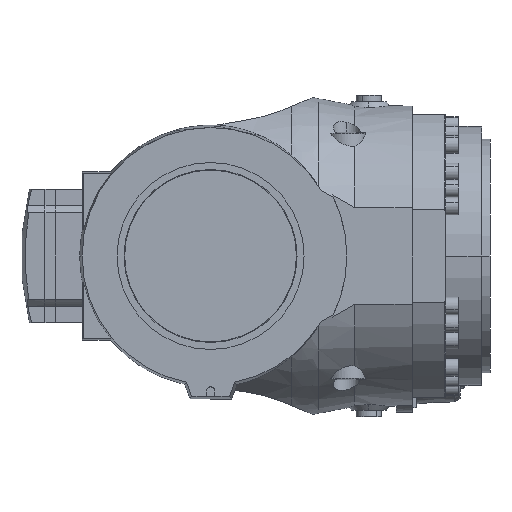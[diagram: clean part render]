
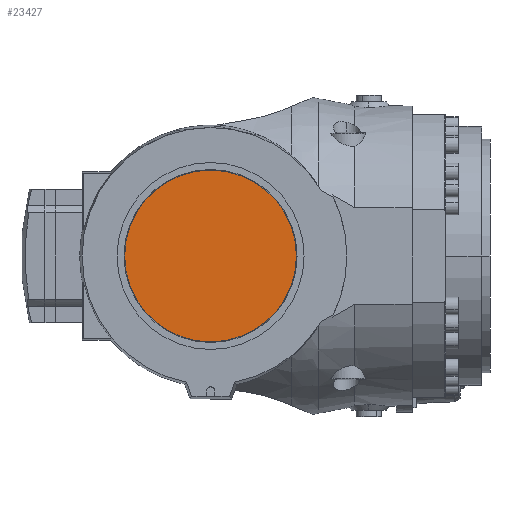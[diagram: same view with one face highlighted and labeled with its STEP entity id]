
A CAD part, front view. The second image highlights one B-rep face of the part: STEP entity #23427.
In plain terms, the highlighted planar face has unit normal (0, -1, 0).
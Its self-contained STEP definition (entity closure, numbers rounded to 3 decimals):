
#601 = EDGE_CURVE ( 'NONE', #16379, #13626, #3604, .T. ) ;
#2194 = DIRECTION ( 'NONE',  ( 1., 0., 0. ) ) ;
#2858 = CIRCLE ( 'NONE', #12677, 64.3 ) ;
#3102 = EDGE_LOOP ( 'NONE', ( #25161, #12167 ) ) ;
#3310 = DIRECTION ( 'NONE',  ( 0., -1., 0. ) ) ;
#3604 = CIRCLE ( 'NONE', #18546, 64.3 ) ;
#6917 = EDGE_CURVE ( 'NONE', #13626, #16379, #2858, .T. ) ;
#8604 = CARTESIAN_POINT ( 'NONE',  ( 2027.998, -106.5, 2525. ) ) ;
#9787 = CARTESIAN_POINT ( 'NONE',  ( 1963.698, -106.5, 2525. ) ) ;
#12167 = ORIENTED_EDGE ( 'NONE', *, *, #6917, .T. ) ;
#12621 = PLANE ( 'NONE',  #18125 ) ;
#12677 = AXIS2_PLACEMENT_3D ( 'NONE', #20837, #16960, #14674 ) ;
#13626 = VERTEX_POINT ( 'NONE', #9787 ) ;
#13703 = DIRECTION ( 'NONE',  ( 1., 0., 0. ) ) ;
#14614 = FACE_OUTER_BOUND ( 'NONE', #3102, .T. ) ;
#14674 = DIRECTION ( 'NONE',  ( 1., 0., 0. ) ) ;
#15996 = CARTESIAN_POINT ( 'NONE',  ( 2027.998, -106.5, 2525. ) ) ;
#16379 = VERTEX_POINT ( 'NONE', #21210 ) ;
#16960 = DIRECTION ( 'NONE',  ( 0., -1., 0. ) ) ;
#18125 = AXIS2_PLACEMENT_3D ( 'NONE', #8604, #20504, #2194 ) ;
#18546 = AXIS2_PLACEMENT_3D ( 'NONE', #15996, #3310, #13703 ) ;
#20504 = DIRECTION ( 'NONE',  ( 0., -1., 0. ) ) ;
#20837 = CARTESIAN_POINT ( 'NONE',  ( 2027.998, -106.5, 2525. ) ) ;
#21210 = CARTESIAN_POINT ( 'NONE',  ( 2092.298, -106.5, 2525. ) ) ;
#23427 = ADVANCED_FACE ( 'NONE', ( #14614 ), #12621, .T. ) ;
#25161 = ORIENTED_EDGE ( 'NONE', *, *, #601, .T. ) ;
